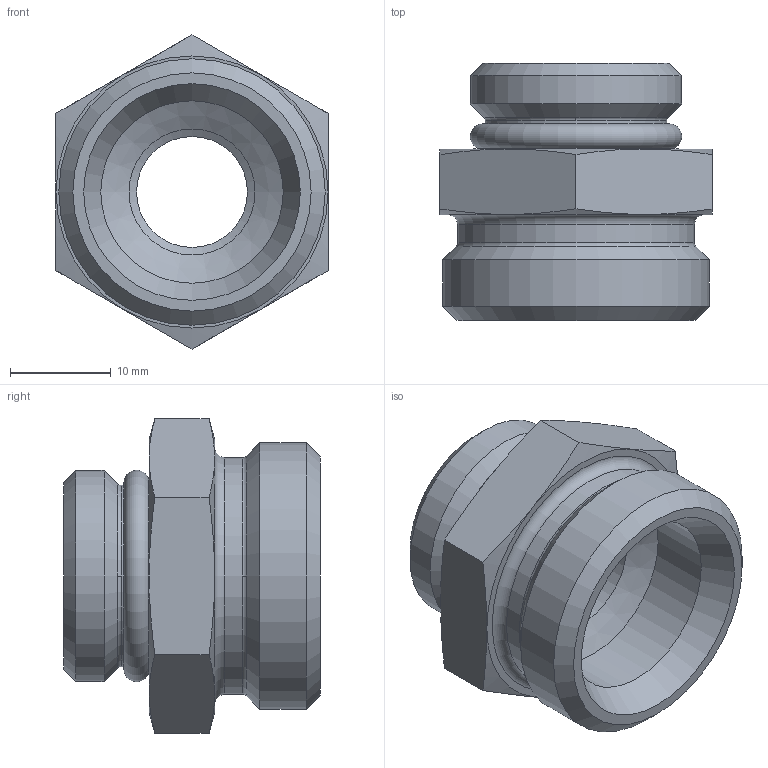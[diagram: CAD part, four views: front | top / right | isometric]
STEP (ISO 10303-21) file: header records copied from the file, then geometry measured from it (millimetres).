
FILE_DESCRIPTION(('STEP AP203'), '1');
FILE_NAME('覆.302638.005.000 捘 - VTr.580.NE 040E', '2024-07-03T13:00:10', ('Boss'), (''), 'C3D Converter', 'C3D Toolkit', '');
FILE_SCHEMA(('CONFIG_CONTROL_DESIGN'));
Length unit declared in the file: millimetre
Products named in the file (1): ВР.302638.005.000 СБ
Bounding box: 27 x 25.5 x 31.18 mm (x, y, z)
Volume: 7605.6 mm3; surface area: 4219.6 mm2
Topology: 1 solids, 1 shells, 34 faces, 76 edges, 46 vertices
Faces by surface type: plane 10, cone 9, torus 8, cylinder 7
Full cylindrical faces by diameter (mm): 11 x1, 12.5 x1, 18 x1, 18.1 x1, 20.955 x1, 23.5 x1, 26.441 x1
Entity records: 1217 total; most frequent: CARTESIAN_POINT 503, DIRECTION 148, ORIENTED_EDGE 112, AXIS2_PLACEMENT_3D 71, EDGE_LOOP 58, EDGE_CURVE 56, VERTEX_POINT 46, CIRCLE 36
